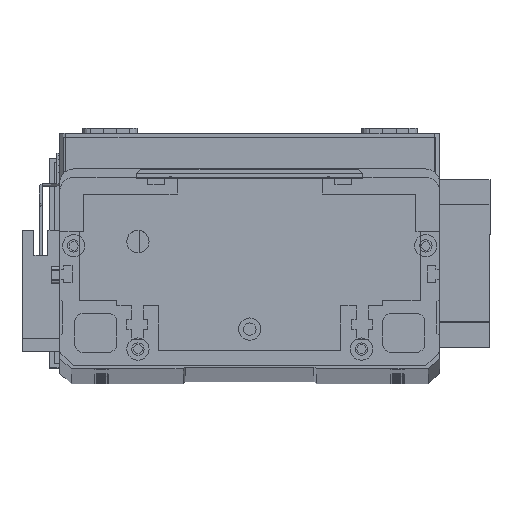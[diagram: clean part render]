
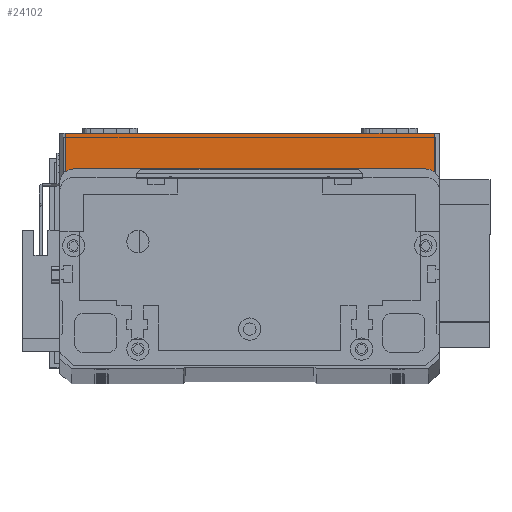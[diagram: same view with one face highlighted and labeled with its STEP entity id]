
A CAD part, top view. The second image highlights one B-rep face of the part: STEP entity #24102.
In plain terms, the highlighted planar face has unit normal (0, 0, 1) as drawn and (0, -1, 0) by its records, which use the part's own axes.
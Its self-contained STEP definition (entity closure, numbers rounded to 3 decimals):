
#2154 = VERTEX_POINT ( 'NONE', #3836 ) ;
#3125 = ORIENTED_EDGE ( 'NONE', *, *, #19078, .F. ) ;
#3836 = CARTESIAN_POINT ( 'NONE',  ( 2., 0., 0. ) ) ;
#4361 = CARTESIAN_POINT ( 'NONE',  ( 0., 0., 19.5 ) ) ;
#7467 = VECTOR ( 'NONE', #21171, 1000. ) ;
#7673 = EDGE_CURVE ( 'NONE', #23722, #29348, #24559, .T. ) ;
#9438 = CARTESIAN_POINT ( 'NONE',  ( 134., 0., 0. ) ) ;
#9846 = LINE ( 'NONE', #12274, #21928 ) ;
#12210 = EDGE_LOOP ( 'NONE', ( #3125, #18110, #22729, #26460 ) ) ;
#12274 = CARTESIAN_POINT ( 'NONE',  ( 2., 0., 19.5 ) ) ;
#13848 = LINE ( 'NONE', #4361, #7467 ) ;
#14712 = DIRECTION ( 'NONE',  ( 0., 0., -1. ) ) ;
#15825 = DIRECTION ( 'NONE',  ( 0., 0., 1. ) ) ;
#17065 = EDGE_CURVE ( 'NONE', #19664, #2154, #9846, .T. ) ;
#18100 = VECTOR ( 'NONE', #22715, 1000. ) ;
#18110 = ORIENTED_EDGE ( 'NONE', *, *, #17065, .T. ) ;
#18153 = CARTESIAN_POINT ( 'NONE',  ( 0., 0., 19.5 ) ) ;
#18197 = AXIS2_PLACEMENT_3D ( 'NONE', #18153, #30306, #15825 ) ;
#19078 = EDGE_CURVE ( 'NONE', #19664, #29348, #13848, .T. ) ;
#19664 = VERTEX_POINT ( 'NONE', #23589 ) ;
#21171 = DIRECTION ( 'NONE',  ( 1., 0., 0. ) ) ;
#21928 = VECTOR ( 'NONE', #14712, 1000. ) ;
#22715 = DIRECTION ( 'NONE',  ( 0., 0., 1. ) ) ;
#22729 = ORIENTED_EDGE ( 'NONE', *, *, #23205, .T. ) ;
#22880 = FACE_OUTER_BOUND ( 'NONE', #12210, .T. ) ;
#22935 = LINE ( 'NONE', #28688, #27868 ) ;
#23025 = PLANE ( 'NONE',  #18197 ) ;
#23205 = EDGE_CURVE ( 'NONE', #2154, #23722, #22935, .T. ) ;
#23589 = CARTESIAN_POINT ( 'NONE',  ( 2., 0., 19.5 ) ) ;
#23722 = VERTEX_POINT ( 'NONE', #9438 ) ;
#24102 = ADVANCED_FACE ( 'NONE', ( #22880 ), #23025, .F. ) ;
#24559 = LINE ( 'NONE', #27498, #18100 ) ;
#26460 = ORIENTED_EDGE ( 'NONE', *, *, #7673, .T. ) ;
#27498 = CARTESIAN_POINT ( 'NONE',  ( 134., 0., 19.5 ) ) ;
#27868 = VECTOR ( 'NONE', #31096, 1000. ) ;
#28255 = CARTESIAN_POINT ( 'NONE',  ( 134., 0., 19.5 ) ) ;
#28688 = CARTESIAN_POINT ( 'NONE',  ( 0., 0., 0. ) ) ;
#29348 = VERTEX_POINT ( 'NONE', #28255 ) ;
#30306 = DIRECTION ( 'NONE',  ( 0., 1., 0. ) ) ;
#31096 = DIRECTION ( 'NONE',  ( 1., 0., 0. ) ) ;
